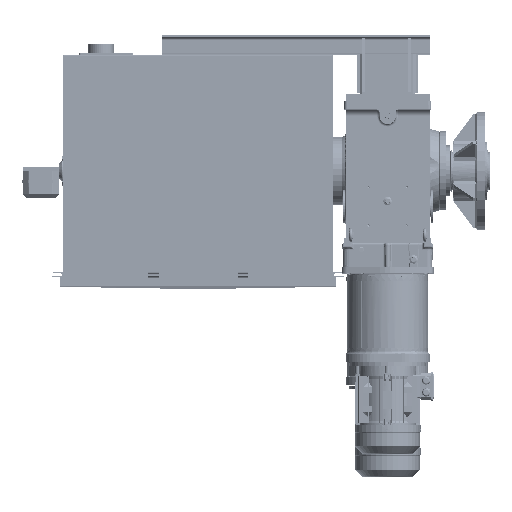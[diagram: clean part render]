
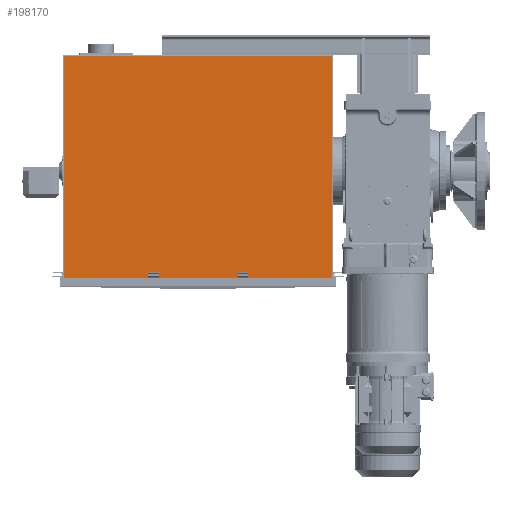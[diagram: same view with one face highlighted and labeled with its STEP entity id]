
A CAD part, top view. The second image highlights one B-rep face of the part: STEP entity #198170.
In plain terms, the highlighted planar face has unit normal (0, 0, 1).
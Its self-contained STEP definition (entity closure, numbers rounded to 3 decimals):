
#5869=FACE_BOUND('',#24394,.T.);
#5870=FACE_BOUND('',#24395,.T.);
#13373=FACE_OUTER_BOUND('',#24393,.T.);
#24393=EDGE_LOOP('',(#131714,#131715,#131716,#131717,#131718,#131719,#131720,
#131721,#131722,#131723,#131724,#131725));
#24394=EDGE_LOOP('',(#131726,#131727,#131728,#131729));
#24395=EDGE_LOOP('',(#131730,#131731,#131732,#131733));
#38178=LINE('',#284779,#55484);
#38195=LINE('',#284824,#55501);
#38197=LINE('',#284828,#55503);
#38198=LINE('',#284830,#55504);
#38199=LINE('',#284839,#55505);
#38216=LINE('',#284884,#55522);
#38218=LINE('',#284888,#55524);
#38219=LINE('',#284890,#55525);
#38665=LINE('',#286335,#55971);
#38668=LINE('',#286341,#55974);
#38671=LINE('',#286348,#55977);
#38674=LINE('',#286352,#55980);
#38680=LINE('',#286364,#55986);
#38682=LINE('',#286368,#55988);
#38684=LINE('',#286371,#55990);
#38685=LINE('',#286374,#55991);
#38686=LINE('',#286376,#55992);
#38687=LINE('',#286377,#55993);
#38688=LINE('',#286379,#55994);
#38689=LINE('',#286380,#55995);
#55484=VECTOR('',#230078,40.);
#55501=VECTOR('',#230121,40.);
#55503=VECTOR('',#230125,40.);
#55504=VECTOR('',#230128,40.);
#55505=VECTOR('',#230137,40.);
#55522=VECTOR('',#230180,40.);
#55524=VECTOR('',#230184,40.);
#55525=VECTOR('',#230187,40.);
#55971=VECTOR('',#231661,945.);
#55974=VECTOR('',#231666,0.992);
#55977=VECTOR('',#231671,2.976);
#55980=VECTOR('',#231676,1.984);
#55986=VECTOR('',#231686,2.976);
#55988=VECTOR('',#231690,0.992);
#55990=VECTOR('',#231694,1.984);
#55991=VECTOR('',#231697,51.016);
#55992=VECTOR('',#231698,894.016);
#55993=VECTOR('',#231699,1051.);
#55994=VECTOR('',#231700,894.016);
#55995=VECTOR('',#231701,51.016);
#78948=VERTEX_POINT('',#284777);
#78949=VERTEX_POINT('',#284778);
#78964=VERTEX_POINT('',#284822);
#78965=VERTEX_POINT('',#284826);
#78968=VERTEX_POINT('',#284837);
#78969=VERTEX_POINT('',#284838);
#78984=VERTEX_POINT('',#284882);
#78985=VERTEX_POINT('',#284886);
#79367=VERTEX_POINT('',#286030);
#79461=VERTEX_POINT('',#286327);
#79462=VERTEX_POINT('',#286331);
#79464=VERTEX_POINT('',#286339);
#79466=VERTEX_POINT('',#286345);
#79467=VERTEX_POINT('',#286347);
#79470=VERTEX_POINT('',#286361);
#79471=VERTEX_POINT('',#286363);
#79472=VERTEX_POINT('',#286367);
#79473=VERTEX_POINT('',#286373);
#79474=VERTEX_POINT('',#286375);
#79475=VERTEX_POINT('',#286378);
#98737=EDGE_CURVE('',#78948,#78949,#38178,.T.);
#98760=EDGE_CURVE('',#78949,#78964,#38195,.T.);
#98762=EDGE_CURVE('',#78965,#78948,#38197,.T.);
#98763=EDGE_CURVE('',#78964,#78965,#38198,.T.);
#98766=EDGE_CURVE('',#78968,#78969,#38199,.T.);
#98789=EDGE_CURVE('',#78969,#78984,#38216,.T.);
#98791=EDGE_CURVE('',#78985,#78968,#38218,.T.);
#98792=EDGE_CURVE('',#78984,#78985,#38219,.T.);
#99478=EDGE_CURVE('',#79461,#79462,#38665,.T.);
#99481=EDGE_CURVE('',#79462,#79464,#38668,.T.);
#99484=EDGE_CURVE('',#79467,#79466,#38671,.T.);
#99487=EDGE_CURVE('',#79464,#79467,#38674,.T.);
#99493=EDGE_CURVE('',#79471,#79470,#38680,.T.);
#99495=EDGE_CURVE('',#79472,#79461,#38682,.T.);
#99497=EDGE_CURVE('',#79470,#79472,#38684,.T.);
#99498=EDGE_CURVE('',#79473,#79466,#38685,.T.);
#99499=EDGE_CURVE('',#79474,#79473,#38686,.T.);
#99500=EDGE_CURVE('',#79474,#79367,#38687,.T.);
#99501=EDGE_CURVE('',#79475,#79367,#38688,.T.);
#99502=EDGE_CURVE('',#79471,#79475,#38689,.T.);
#131714=ORIENTED_EDGE('',*,*,#99484,.T.);
#131715=ORIENTED_EDGE('',*,*,#99498,.F.);
#131716=ORIENTED_EDGE('',*,*,#99499,.F.);
#131717=ORIENTED_EDGE('',*,*,#99500,.T.);
#131718=ORIENTED_EDGE('',*,*,#99501,.F.);
#131719=ORIENTED_EDGE('',*,*,#99502,.F.);
#131720=ORIENTED_EDGE('',*,*,#99493,.T.);
#131721=ORIENTED_EDGE('',*,*,#99497,.T.);
#131722=ORIENTED_EDGE('',*,*,#99495,.T.);
#131723=ORIENTED_EDGE('',*,*,#99478,.T.);
#131724=ORIENTED_EDGE('',*,*,#99481,.T.);
#131725=ORIENTED_EDGE('',*,*,#99487,.T.);
#131726=ORIENTED_EDGE('',*,*,#98737,.T.);
#131727=ORIENTED_EDGE('',*,*,#98760,.T.);
#131728=ORIENTED_EDGE('',*,*,#98763,.T.);
#131729=ORIENTED_EDGE('',*,*,#98762,.T.);
#131730=ORIENTED_EDGE('',*,*,#98766,.T.);
#131731=ORIENTED_EDGE('',*,*,#98789,.T.);
#131732=ORIENTED_EDGE('',*,*,#98792,.T.);
#131733=ORIENTED_EDGE('',*,*,#98791,.T.);
#180452=PLANE('',#209896);
#198170=ADVANCED_FACE('',(#13373,#5869,#5870),#180452,.F.);
#209896=AXIS2_PLACEMENT_3D('',#286372,#231695,#231696);
#230078=DIRECTION('',(0.,1.,0.));
#230121=DIRECTION('',(1.,0.,0.));
#230125=DIRECTION('',(-1.,0.,0.));
#230128=DIRECTION('',(0.,-1.,0.));
#230137=DIRECTION('',(0.,1.,0.));
#230180=DIRECTION('',(1.,0.,0.));
#230184=DIRECTION('',(-1.,0.,0.));
#230187=DIRECTION('',(0.,-1.,0.));
#231661=DIRECTION('',(1.,0.,0.));
#231666=DIRECTION('',(0.,1.,0.));
#231671=DIRECTION('',(0.,-1.,0.));
#231676=DIRECTION('',(1.,0.,0.));
#231686=DIRECTION('',(0.,1.,0.));
#231690=DIRECTION('',(0.,-1.,0.));
#231694=DIRECTION('',(1.,0.,0.));
#231695=DIRECTION('center_axis',(0.,0.,
-1.));
#231696=DIRECTION('ref_axis',(1.,0.,0.));
#231697=DIRECTION('',(-1.,0.,0.));
#231698=DIRECTION('',(0.,-1.,0.));
#231699=DIRECTION('',(-1.,0.,0.));
#231700=DIRECTION('',(0.,1.,0.));
#231701=DIRECTION('',(-1.,0.,0.));
#284777=CARTESIAN_POINT('',(-1065.982,-646.817,872.238));
#284778=CARTESIAN_POINT('',(-1065.982,-606.817,872.238));
#284779=CARTESIAN_POINT('',(-1065.982,-409.737,872.238));
#284822=CARTESIAN_POINT('',(-1025.982,-606.817,872.238));
#284824=CARTESIAN_POINT('',(-958.482,-606.817,872.238));
#284826=CARTESIAN_POINT('',(-1025.982,-646.817,872.238));
#284828=CARTESIAN_POINT('',(-958.482,-646.817,872.238));
#284830=CARTESIAN_POINT('',(-1025.982,-409.737,872.238));
#284837=CARTESIAN_POINT('',(-715.982,-646.817,872.238));
#284838=CARTESIAN_POINT('',(-715.982,-606.817,872.238));
#284839=CARTESIAN_POINT('',(-715.982,-409.737,872.238));
#284882=CARTESIAN_POINT('',(-675.982,-606.817,872.238));
#284884=CARTESIAN_POINT('',(-783.482,-606.817,872.238));
#284886=CARTESIAN_POINT('',(-675.982,-646.817,872.238));
#284888=CARTESIAN_POINT('',(-783.482,-646.817,872.238));
#284890=CARTESIAN_POINT('',(-675.982,-409.737,872.238));
#286030=CARTESIAN_POINT('',(-1396.482,241.483,872.238));
#286327=CARTESIAN_POINT('',(-1343.482,-650.55,872.238));
#286331=CARTESIAN_POINT('',(-398.482,-650.55,872.238));
#286335=CARTESIAN_POINT('',(-634.732,-650.55,872.238));
#286339=CARTESIAN_POINT('',(-398.482,-649.558,872.238));
#286341=CARTESIAN_POINT('',(-398.482,-425.17,872.238));
#286345=CARTESIAN_POINT('',(-396.499,-652.534,872.238));
#286347=CARTESIAN_POINT('',(-396.499,-649.558,872.238));
#286348=CARTESIAN_POINT('',(-396.499,-426.658,872.238));
#286352=CARTESIAN_POINT('',(-633.74,-649.558,872.238));
#286361=CARTESIAN_POINT('',(-1345.466,-649.558,872.238));
#286363=CARTESIAN_POINT('',(-1345.466,-652.534,872.238));
#286364=CARTESIAN_POINT('',(-1345.466,-425.17,872.238));
#286367=CARTESIAN_POINT('',(-1343.482,-649.558,872.238));
#286368=CARTESIAN_POINT('',(-1343.482,-426.658,872.238));
#286371=CARTESIAN_POINT('',(-1107.232,-649.558,872.238));
#286372=CARTESIAN_POINT('Origin',(-870.982,-200.782,872.238));
#286373=CARTESIAN_POINT('',(-345.482,-652.534,872.238));
#286374=CARTESIAN_POINT('',(-345.482,-652.534,872.238));
#286375=CARTESIAN_POINT('',(-345.482,241.483,872.238));
#286376=CARTESIAN_POINT('',(-345.482,241.483,872.238));
#286377=CARTESIAN_POINT('',(-870.982,241.483,872.238));
#286378=CARTESIAN_POINT('',(-1396.482,-652.534,872.238));
#286379=CARTESIAN_POINT('',(-1396.482,250.457,872.238));
#286380=CARTESIAN_POINT('',(-345.482,-652.534,872.238));
